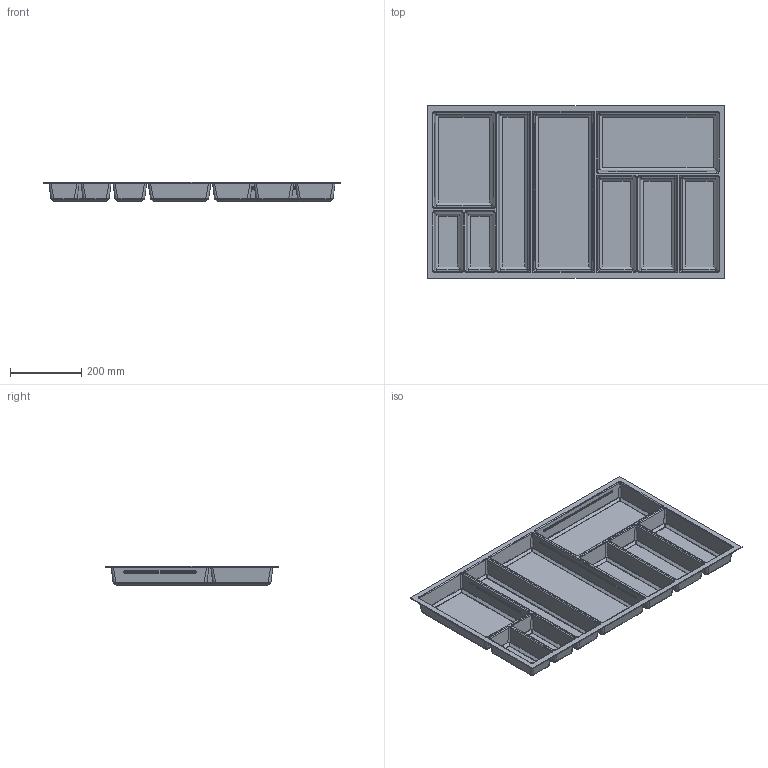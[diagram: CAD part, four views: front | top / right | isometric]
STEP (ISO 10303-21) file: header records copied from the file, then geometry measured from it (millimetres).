
FILE_DESCRIPTION (( 'STEP AP203' ), '1' );
FILE_NAME ('Pøíborník SKY 500_90 (822 x 474 mm)_398625 a 398634_3D.STEP', '2021-02-18T11:19:37', ( '' ), ( '' ), 'SwSTEP 2.0', 'SolidWorks 2019', '' );
FILE_SCHEMA (( 'CONFIG_CONTROL_DESIGN' ));
Length unit declared in the file: millimetre
Products named in the file (1): P齶born璭 SKY 500_90 (822 x 474 mm)_398625 a 398634_3D
Bounding box: 835.31 x 485.31 x 55.5 mm (x, y, z)
Volume: 1782002.1 mm3; surface area: 1432068.4 mm2
Topology: 1 solids, 1 shells, 982 faces, 2106 edges, 1156 vertices
Faces by surface type: cylinder 334, bspline 288, plane 180, sphere 144, torus 36
Entity records: 32479 total; most frequent: CARTESIAN_POINT 13065, ORIENTED_EDGE 4212, DIRECTION 3792, EDGE_CURVE 2106, AXIS2_PLACEMENT_3D 1567, VERTEX_POINT 1156, EDGE_LOOP 1012, ADVANCED_FACE 982
